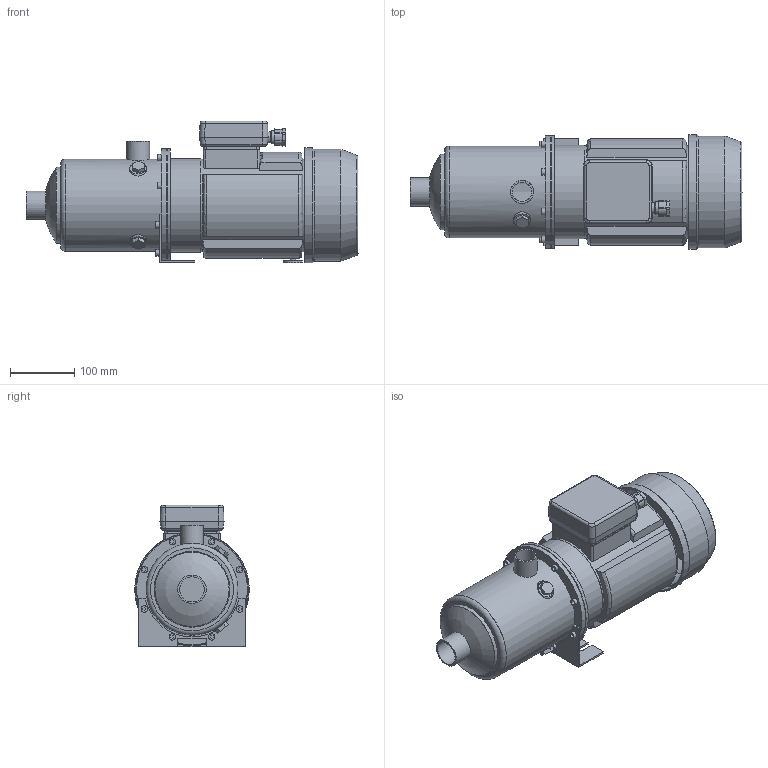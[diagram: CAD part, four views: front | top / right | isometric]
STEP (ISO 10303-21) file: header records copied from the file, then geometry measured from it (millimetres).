
FILE_DESCRIPTION(/* description */ ('Unknown'),/* implementation_level */ '2;1');
FILE_NAME(/* name */ 'MH 5 [6] T6 IE3',/* time_stamp */ '2026-07-10T15:13:03+02:00',/* author */ ('Unknown'),/* organization */ ('Unknown'),/* preprocessor_version */ 'ST-DEVELOPER v20',/* originating_system */ 'Solid Edge',/* authorisation */ 'Unknown');
FILE_SCHEMA (('AUTOMOTIVE_DESIGN {1 0 10303 214 3 1 1}'));
Length unit declared in the file: millimetre
Products named in the file (10): MH 5 [6] T6 IE3; Flangia motore Tonda M90; Corpo MH 3-5 [6]; Motore MEC 90 - T; carcassa MEC 90; Copriventola MEC 90; Ghiera PG13,5 cod. SAV.GHI.20; Basetta MEC 80-90-100 T; Piedino MEC 90 int.90; Staffa 3-5-9 int.90
Assembly tree (9 placements, depth 3):
  MH 5 [6] T6 IE3
    Flangia motore Tonda M90
    Corpo MH 3-5 [6]
    Motore MEC 90 - T
      carcassa MEC 90
      Copriventola MEC 90
      Ghiera PG13,5 cod. SAV.GHI.20
      Basetta MEC 80-90-100 T
    Piedino MEC 90 int.90
    Staffa 3-5-9 int.90
Bounding box: 518.6 x 179.1 x 221.5 mm (x, y, z)
Volume: 2922816.4 mm3; surface area: 676953 mm2
Topology: 8 solids, 8 shells, 321 faces, 765 edges, 506 vertices
Faces by surface type: plane 180, cylinder 100, cone 20, torus 11, bspline 8, sphere 2
Full cylindrical faces by diameter (mm): 7 x4, 10 x9, 13 x1, 17 x1, 19.73 x1, 20.4 x1, 21 x1, 30 x1, 30.291 x1, 36 x1, 38.952 x1, 44.5 x1, 116.1 x1, 118.5 x1, 135 x1, 140 x3, 141.1 x1, 143.5 x1, 145 x1, 146 x1, 169.5 x1, 173.5 x1, 174.1 x2, 174.5 x1, 176.5 x2, 179.1 x1
Entity records: 10561 total; most frequent: CARTESIAN_POINT 1948, DIRECTION 1507, ORIENTED_EDGE 1350, EDGE_CURVE 675, AXIS2_PLACEMENT_3D 561, VERTEX_POINT 477, EDGE_LOOP 438, FACE_BOUND 438
